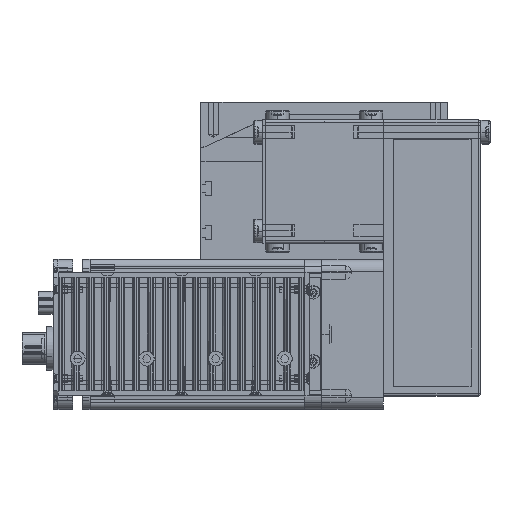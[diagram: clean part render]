
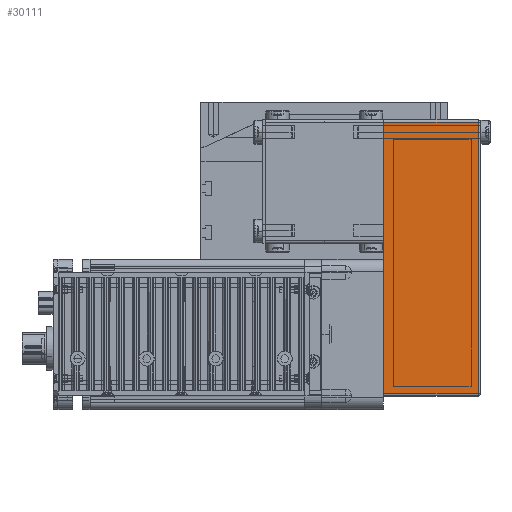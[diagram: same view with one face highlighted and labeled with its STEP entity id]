
A CAD part, top view. The second image highlights one B-rep face of the part: STEP entity #30111.
In plain terms, the highlighted planar face has unit normal (0, 0, 1) as drawn and (0, -1, 0) by its records, which use the part's own axes.
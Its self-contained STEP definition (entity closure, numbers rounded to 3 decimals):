
#7095 = LINE ( 'NONE', #7675, #7963 ) ;
#7675 = CARTESIAN_POINT ( 'NONE',  ( 61., -25., 39.5 ) ) ;
#7963 = VECTOR ( 'NONE', #7969, 1000. ) ;
#7969 = DIRECTION ( 'NONE',  ( 0., 0., -1. ) ) ;
#8683 = CARTESIAN_POINT ( 'NONE',  ( -49., -25., 38.5 ) ) ;
#8700 = CARTESIAN_POINT ( 'NONE',  ( -49., -25., 0. ) ) ;
#8713 = DIRECTION ( 'NONE',  ( 0., 0., 1. ) ) ;
#8714 = VECTOR ( 'NONE', #8713, 1000. ) ;
#8722 = CARTESIAN_POINT ( 'NONE',  ( -49., -25., 39.5 ) ) ;
#8723 = LINE ( 'NONE', #8722, #8714 ) ;
#8734 = CARTESIAN_POINT ( 'NONE',  ( 61., -25., 0. ) ) ;
#8809 = CARTESIAN_POINT ( 'NONE',  ( 61., -25., 38.5 ) ) ;
#8945 = PLANE ( 'NONE',  #8958 ) ;
#8958 = AXIS2_PLACEMENT_3D ( 'NONE', #8977, #9042, #9041 ) ;
#8975 = FACE_OUTER_BOUND ( 'NONE', #30147, .T. ) ;
#8977 = CARTESIAN_POINT ( 'NONE',  ( -50., -25., 39.5 ) ) ;
#8979 = DIRECTION ( 'NONE',  ( 1., 0., 0. ) ) ;
#8980 = VECTOR ( 'NONE', #8979, 1000. ) ;
#8981 = CARTESIAN_POINT ( 'NONE',  ( -50., -25., 38.5 ) ) ;
#8982 = LINE ( 'NONE', #8981, #8980 ) ;
#9037 = DIRECTION ( 'NONE',  ( 1., 0., 0. ) ) ;
#9038 = VECTOR ( 'NONE', #9037, 1000. ) ;
#9039 = CARTESIAN_POINT ( 'NONE',  ( -50., -25., 0. ) ) ;
#9041 = DIRECTION ( 'NONE',  ( 0., 0., 1. ) ) ;
#9042 = DIRECTION ( 'NONE',  ( 0., 1., 0. ) ) ;
#9045 = LINE ( 'NONE', #9039, #9038 ) ;
#29847 = EDGE_CURVE ( 'NONE', #29864, #29851, #8723, .T. ) ;
#29851 = VERTEX_POINT ( 'NONE', #8683 ) ;
#29864 = VERTEX_POINT ( 'NONE', #8700 ) ;
#29949 = VERTEX_POINT ( 'NONE', #8809 ) ;
#29954 = VERTEX_POINT ( 'NONE', #8734 ) ;
#29960 = EDGE_CURVE ( 'NONE', #29949, #29954, #7095, .T. ) ;
#30067 = ORIENTED_EDGE ( 'NONE', *, *, #30104, .F. ) ;
#30089 = ORIENTED_EDGE ( 'NONE', *, *, #29847, .F. ) ;
#30091 = ORIENTED_EDGE ( 'NONE', *, *, #29960, .F. ) ;
#30104 = EDGE_CURVE ( 'NONE', #29851, #29949, #8982, .T. ) ;
#30111 = ADVANCED_FACE ( 'NONE', ( #8975 ), #8945, .F. ) ;
#30112 = EDGE_CURVE ( 'NONE', #29864, #29954, #9045, .T. ) ;
#30147 = EDGE_LOOP ( 'NONE', ( #30089, #30218, #30091, #30067 ) ) ;
#30218 = ORIENTED_EDGE ( 'NONE', *, *, #30112, .T. ) ;
